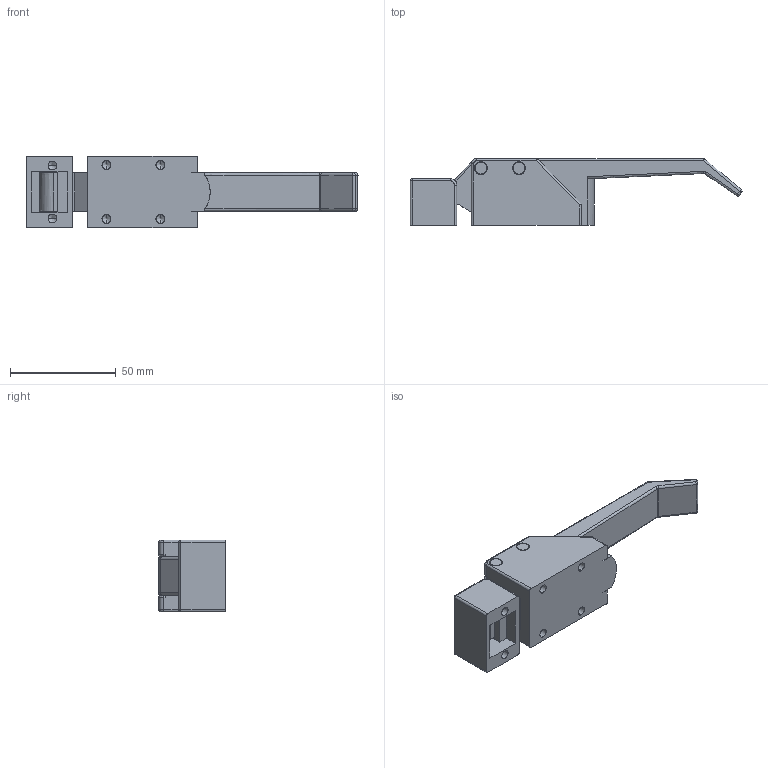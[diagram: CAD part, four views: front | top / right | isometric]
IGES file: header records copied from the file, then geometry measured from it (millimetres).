
Start section: SolidWorks IGES file using analytic representation for surfaces
Global section: file name: D:\尚坤工业图纸\SK1--门锁系列\SK1-093-1\SK1-093-1.IGS; native system: SolidWorks 2015; preprocessor: SolidWorks 2015; author: admin; date: 181101.104604; units: millimetre
Bounding box: 156.84 x 31.5 x 34 mm (x, y, z)
Surface area: 20597.8 mm2 (no closed solid volume)
Topology: 0 solids, 0 shells, 199 faces, 1971 edges, 1946 vertices
Faces by surface type: revolution 119, bspline 80
